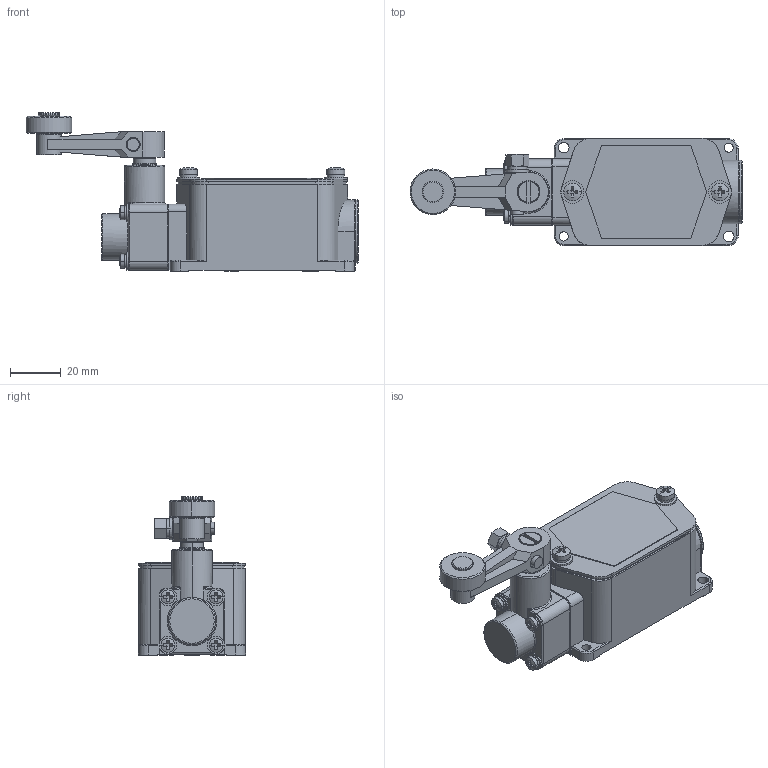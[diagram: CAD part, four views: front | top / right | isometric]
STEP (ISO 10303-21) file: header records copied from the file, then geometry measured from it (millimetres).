
FILE_DESCRIPTION((''),'2;1');
FILE_NAME('111','2022-03-01T',('qinxiong.ji'),(''),'PRO/ENGINEER BY PARAMETRIC TECHNOLOGY CORPORATION, 2015440','PRO/ENGINEER BY PARAMETRIC TECHNOLOGY CORPORATION, 2015440','');
FILE_SCHEMA(('CONFIG_CONTROL_DESIGN'));
Length unit declared in the file: millimetre
Products named in the file (1): 111
Bounding box: 130.8 x 42.2 x 62.3 mm (x, y, z)
Volume: 113994.1 mm3; surface area: 42100.1 mm2
Topology: 3 solids, 5 shells, 738 faces, 1879 edges, 1165 vertices
Faces by surface type: plane 410, cylinder 201, torus 75, cone 32, sphere 16, bspline 4
Entity records: 24244 total; most frequent: CARTESIAN_POINT 6217, DIRECTION 3829, ORIENTED_EDGE 3754, EDGE_CURVE 1877, AXIS2_PLACEMENT_3D 1438, VERTEX_POINT 1165, VECTOR 953, LINE 953
